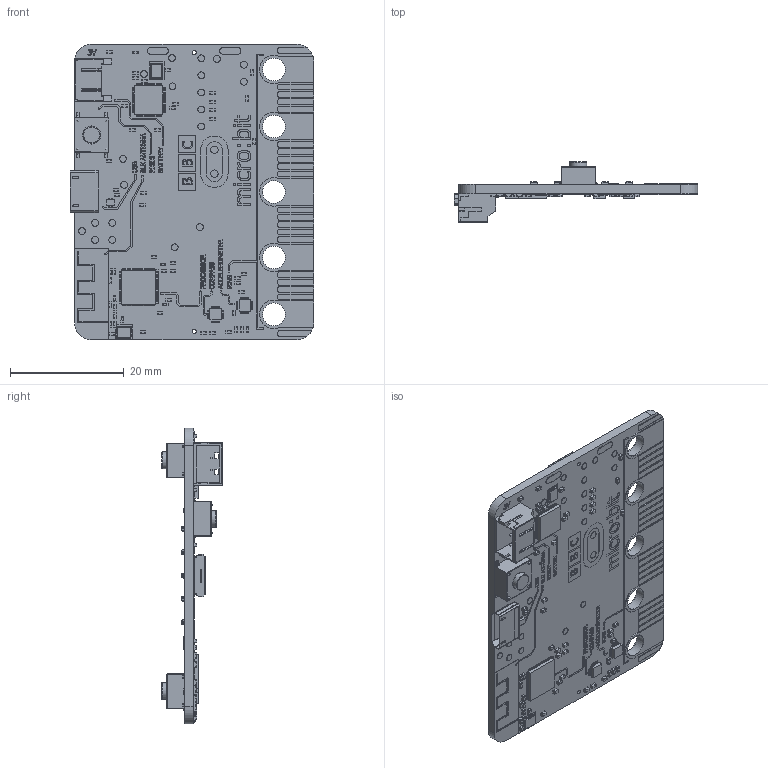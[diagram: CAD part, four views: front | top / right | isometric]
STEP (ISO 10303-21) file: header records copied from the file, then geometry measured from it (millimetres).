
FILE_DESCRIPTION(/* description */ (''),/* implementation_level */ '2;1');
FILE_NAME(/* name */ 'C:\Users\daniel\Documents\PROJECTS\PCB models\New microbit board\Microbit board assembly.stp',/* time_stamp */ '2016-02-29T11:35:22+00:00',/* author */ ('daniel'),/* organization */ (''),/* preprocessor_version */ 'ST-DEVELOPER v16.1',/* originating_system */ 'Autodesk Inventor 2016',/* authorisation */ '');
FILE_SCHEMA (('AUTOMOTIVE_DESIGN { 1 0 10303 214 3 1 1 }'));
Products named in the file (24): microbit main board; Pins; Button black part; Button metal plate; feet; Button assembly microbit; LED; Front face text; Chip one; Chip two; Chip three; chip four; chip five; micro usb; JST connector; Circle capacitors; Resistor; Back text; back face lines; antenna; Slot capacitors; Assembly2; Capacitor; Microbit board assembly
Assembly tree (124 placements, depth 3):
  Microbit board assembly
    microbit main board
    Pins  x2
    Button assembly microbit  x3
      Button black part
      Button metal plate
      feet
    LED  x25
    Front face text
    Chip one
    Chip two
    Chip three  x2
    chip four  x2
    chip five
    micro usb
    JST connector
    Circle capacitors  x20
    Resistor  x45
    Back text
    back face lines
    antenna
    Slot capacitors
    Assembly2
      Resistor  x4
    Capacitor  x6
Bounding box: 42.75 x 10.6 x 52 mm (x, y, z)
Volume: 3972.3 mm3; surface area: 8002.3 mm2
Topology: 504 solids, 504 shells, 5579 faces, 13266 edges, 8896 vertices
Faces by surface type: plane 4134, cylinder 849, bspline 539, sphere 51, torus 6
Full cylindrical faces by diameter (mm): 0.7 x2, 1.2 x20, 1.3 x4, 3 x3, 4 x15
Entity records: 106550 total; most frequent: CARTESIAN_POINT 24713, ORIENTED_EDGE 16730, DIRECTION 14151, EDGE_CURVE 8363, LINE 6387, VECTOR 6387, VERTEX_POINT 5576, AXIS2_PLACEMENT_3D 3882
